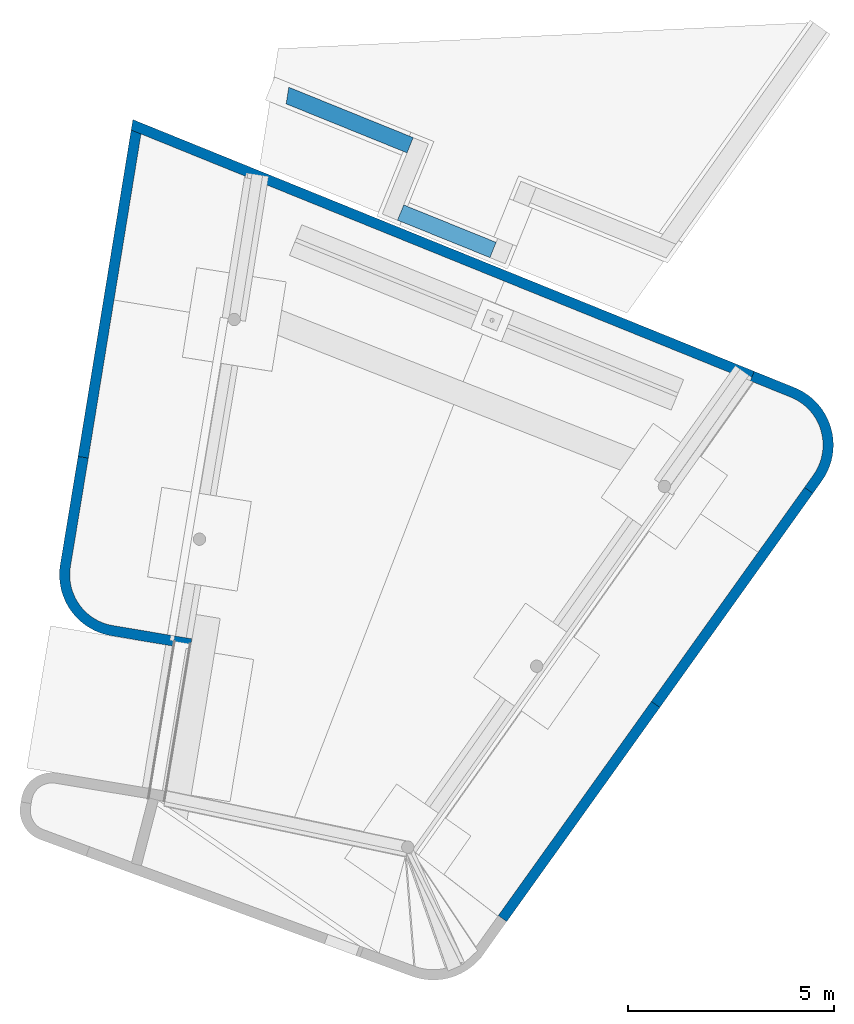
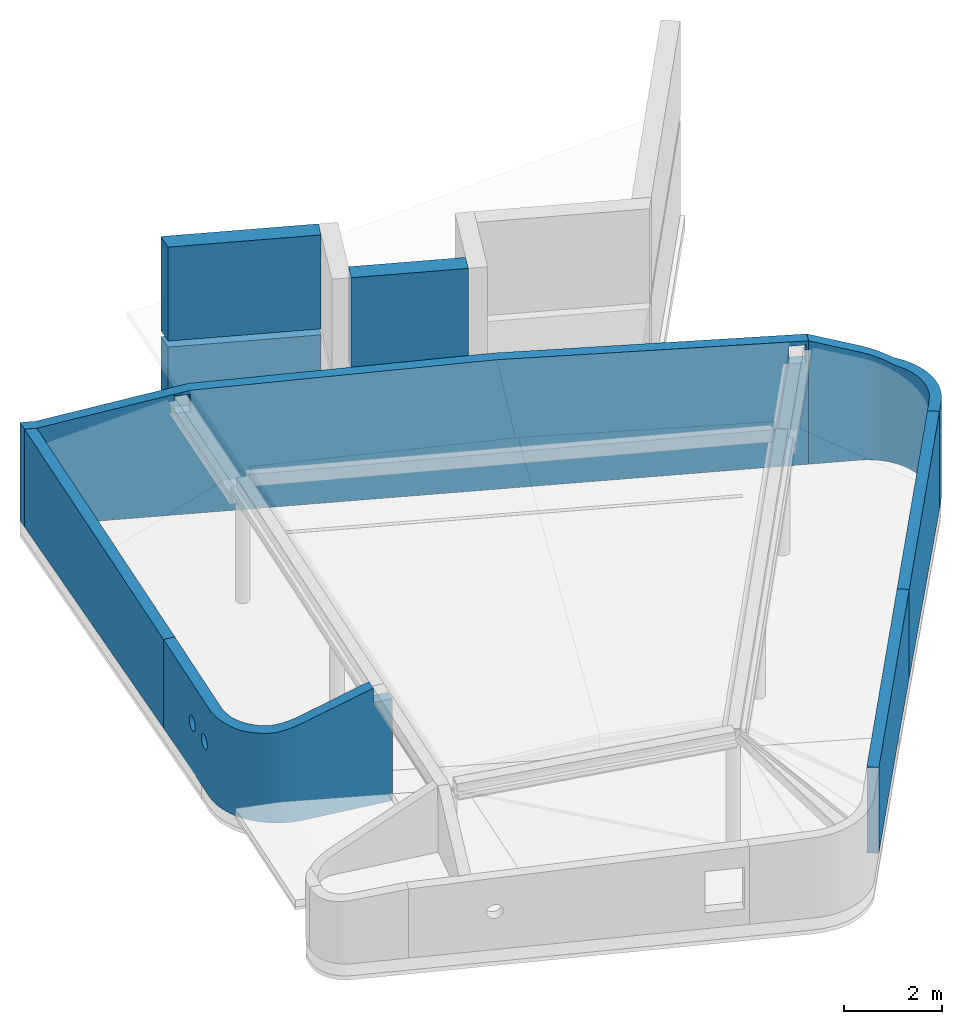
# One storey, part 7 of 8: 9 walls.
"""IFC2X3 building model written with IfcOpenShell, lengths in millimetres."""

from ifc_helpers import new_model, si_unit, frame, origin_with_axes, place, context, subcontext, project, spatial, faceted_brep, material, type_object, element, save


model = new_model("IFC2X3")

# Units and contexts
model_context = context("Model", 3, precision=1e-05, world=origin_with_axes())
body_context = subcontext(model_context, "Body", "Model", "MODEL_VIEW")
ifc_project = project(units=[si_unit("LENGTHUNIT", "METRE", prefix="MILLI"), si_unit("AREAUNIT", "SQUARE_METRE"), si_unit("VOLUMEUNIT", "CUBIC_METRE"), si_unit("MASSUNIT", "GRAM", prefix="KILO"), si_unit("TIMEUNIT", "SECOND"), si_unit("PLANEANGLEUNIT", "RADIAN"), si_unit("SOLIDANGLEUNIT", "STERADIAN"), si_unit("THERMODYNAMICTEMPERATUREUNIT", "DEGREE_CELSIUS"), si_unit("LUMINOUSINTENSITYUNIT", "LUMEN")], contexts=[model_context])

# Site, building, storey
site_placement = place(None, origin_with_axes())
site = spatial("IfcSite", under=ifc_project, at=site_placement, Name="Site", CompositionType="ELEMENT")
building_placement = place(site_placement, origin_with_axes())
building = spatial("IfcBuilding", under=site, at=building_placement, Name="Undefined", CompositionType="ELEMENT")
storey_placement = place(building_placement, origin_with_axes())
storey = spatial("IfcBuildingStorey", under=building, at=storey_placement, Name="Undefined", CompositionType="ELEMENT", Elevation=0.0)

# Walls
ifc_material_1 = material(Name="CONCRETE/C45/55")
wall_type_1 = type_object("IfcWallType", Name="2250*250", PredefinedType="NOTDEFINED")
wall_1_placement = place(storey_placement, frame((53012.3710597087, 44323.0525527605, 37875.0), z_axis=(0.0, 0.0, 1.0), x_axis=(-0.581761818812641, -0.813359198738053, 0.0)))
element("IfcWall", 1, at=wall_1_placement, inside=storey, type_object=wall_type_1, material=ifc_material_1, Name="PLASSTØPTYTTERVEGG", ObjectType="2250*250", context=body_context, shape_type="Brep", body=[
    faceted_brep([(6389.24011050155, 125.000000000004, -1025.00000004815), (6389.24011050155, -124.999999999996, -1024.99921310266), (2182.60052867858, -125.0, -1024.99921218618), (2182.60046200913, 125.000000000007, -1024.99999913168), (0.000223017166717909, 125.000000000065, -1101.39426953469), (0.0, -125.0, -1101.39348258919), (0.0, 125.000000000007, 1125.0), (0.0, -125.0, 1125.0), (6389.24011050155, -124.999999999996, 1125.0), (6389.24011050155, 125.000000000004, 1125.0)], [[[0, 1, 2, 3]], [[4, 3, 2, 5]], [[6, 7, 8, 9]], [[7, 6, 4, 5]], [[1, 8, 7, 5, 2]], [[9, 8, 1, 0]], [[6, 9, 0, 3, 4]]]),
])
wall_type_2 = type_object("IfcWallType", Name="3500*250", PredefinedType="NOTDEFINED")
wall_2_placement = place(storey_placement, frame((39116.1233768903, 50322.6194297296, 38500.0), z_axis=(0.0, 0.0, 1.0), x_axis=(-0.162510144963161, -0.986706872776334, 0.0)))
element("IfcWall", 2, at=wall_2_placement, inside=storey, type_object=wall_type_2, material=ifc_material_1, Name="PLASSTØPTYTTERVEGG", ObjectType="3500*250", context=body_context, shape_type="Brep", body=[
    faceted_brep([(1498.23986659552, 124.999986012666, -534.140377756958), (1498.75902990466, -125.000013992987, -534.140377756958), (1508.7173520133, -125.000014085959, -566.969234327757), (1508.19818870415, 124.999985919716, -566.969234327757), (1524.88893376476, -125.000014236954, -597.22452554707), (1524.36977045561, 124.999985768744, -597.22452554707), (1546.65231034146, -125.000014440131, -623.7435575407), (1546.13314703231, 124.99998556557, -623.7435575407), (1573.17112738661, -125.000014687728, -645.507218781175), (1572.65196407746, 124.999985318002, -645.507218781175), (1603.42628163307, -125.000014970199, -661.679143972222), (1602.90711832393, 124.99998503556, -661.679143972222), (1636.25508447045, -125.000015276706, -671.637855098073), (1635.7359211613, 124.999984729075, -671.637855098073), (1670.3959434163, -125.000015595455, -675.000644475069), (1669.87678010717, 124.99998441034, -675.000644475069), (1704.53684440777, -125.000015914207, -671.638281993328), (1704.01768109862, 124.999984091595, -671.638281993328), (1737.36577176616, -125.000016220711, -661.679981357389), (1736.84660845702, 124.999983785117, -661.679981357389), (1767.6211282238, -125.000016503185, -645.508434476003), (1767.10196491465, 124.999983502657, -645.508434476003), (1794.14021739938, -125.000016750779, -623.745104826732), (1793.62105409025, 124.999983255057, -623.745104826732), (1815.90392556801, -125.000016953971, -597.226344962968), (1815.38476225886, 124.999983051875, -597.226344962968), (1832.07588562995, -125.000017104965, -566.971255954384), (1831.5567223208, 124.999982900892, -566.971255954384), (1842.03461822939, -125.000017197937, -534.142523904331), (1841.51545492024, 124.999982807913, -534.142523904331), (1845.39741485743, -125.000017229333, -500.001738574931), (1844.87825154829, 124.999982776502, -500.001738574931), (1842.03504512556, -125.000017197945, -465.860911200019), (1841.51588181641, 124.999982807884, -465.860911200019), (1832.07672301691, -125.000017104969, -433.032054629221), (1831.55755970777, 124.999982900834, -433.032054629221), (1815.90514126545, -125.000016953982, -402.776763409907), (1815.38597795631, 124.999983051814, -402.776763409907), (1794.14176468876, -125.000016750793, -376.257731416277), (1793.62260137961, 124.999983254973, -376.257731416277), (1767.62294764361, -125.000016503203, -354.494070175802), (1767.10378433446, 124.999983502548, -354.494070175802), (1737.36779339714, -125.000016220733, -338.322144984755), (1736.848630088, 124.99998378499, -338.322144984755), (1704.53899055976, -125.000015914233, -328.363433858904), (1704.01982725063, 124.999984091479, -328.363433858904), (1670.39813161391, -125.000015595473, -325.000644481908), (1669.87896830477, 124.999984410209, -325.000644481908), (1636.25723062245, -125.000015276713, -328.363006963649), (1635.73806731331, 124.999984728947, -328.363006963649), (1603.42830326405, -125.000014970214, -338.321307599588), (1602.9091399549, 124.999985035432, -338.321307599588), (1573.17294680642, -125.000014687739, -354.492854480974), (1572.65378349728, 124.999985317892, -354.492854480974), (1546.65385763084, -125.000014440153, -376.256184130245), (1546.13469432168, 124.999985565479, -376.256184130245), (1524.89014946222, -125.000014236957, -402.774943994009), (1524.37098615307, 124.999985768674, -402.774943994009), (1508.71818940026, -125.000014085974, -433.030033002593), (1508.19902609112, 124.999985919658, -433.030033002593), (1498.75945680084, -125.000013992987, -465.858765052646), (1498.24029349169, 124.999986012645, -465.858765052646), (1495.39666017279, -125.000013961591, -499.999550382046), (1494.87749686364, 124.999986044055, -499.999550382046), (-1.16704177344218e-06, -125.000000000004, 500.000055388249), (1.16704177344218e-06, 125.000000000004, 499.99886851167), (1.16704177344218e-06, 125.000000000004, -1711.28562424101), (-1.16704177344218e-06, -125.000000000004, -1713.0847808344), (3758.10795111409, 773.41684568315, 584.305493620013), (3712.50372545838, 696.943008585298, 572.960917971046), (3661.5713115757, 623.909575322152, 562.123024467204), (3605.56913623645, 554.68711137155, 551.846803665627), (3544.78134975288, 489.626845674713, 542.184396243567), (3479.51638422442, 429.058888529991, 533.184828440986), (3410.10538857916, 373.29055664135, 524.893763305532), (3336.90054835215, 322.604813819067, 517.353269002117), (3260.27329872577, 277.258835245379, 510.601605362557), (3180.6124398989, 237.482702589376, 504.673029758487), (3104.8207423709, 206.163616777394, 499.998435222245), (3598.91328962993, 204.496039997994, 499.998435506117), (3642.9416528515, 239.870671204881, 505.257573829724), (3721.25961148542, 312.552219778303, 516.057055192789), (3794.20495526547, 390.624538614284, 527.65194409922), (3861.40756567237, 473.69149535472, 539.983409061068), (3922.52646233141, 561.331615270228, 552.988881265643), (3977.25153311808, 653.10021978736, 566.602372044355), (4025.30510764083, 748.531682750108, 580.754807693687), (4041.5153814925, 787.388380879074, 586.515558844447), (3765.61206764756, 788.319562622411, 586.515558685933), (3918.9489072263, 3317.09443732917, 899.338501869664), (3917.5333263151, 2897.48280081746, 899.336025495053), (4167.53379802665, 2897.20093515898, 899.992900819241), (4168.94747948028, 3316.24952776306, 899.995373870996), (3917.53386026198, 2897.64107560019, 1264.72455198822), (4167.53433127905, 2897.35900377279, 1264.90547179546), (3912.3829281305, 1370.78306140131, 773.908448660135), (3908.91156272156, 1281.81147728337, 745.304649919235), (3899.11545228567, 1193.31272374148, 716.845981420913), (3883.04430146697, 1105.73583598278, 688.676840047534), (3860.77965392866, 1019.5251717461, 660.940153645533), (3832.43447861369, 935.118156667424, 633.776655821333), (3798.15259654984, 852.943064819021, 607.324171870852), (4066.44336611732, 847.14179296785, 605.750416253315), (4100.4575764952, 948.430211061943, 638.34661364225), (4127.17515354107, 1051.88300814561, 671.630637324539), (4146.46053452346, 1156.97527345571, 705.433606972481), (4158.21586704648, 1263.17377770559, 739.584009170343), (4162.38150554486, 1369.93967864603, 773.908567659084), (3908.91156272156, 1281.81147728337, -1667.01268260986), (3899.11545228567, 1193.31272374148, -1667.7387950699), (3883.04430146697, 1105.73583598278, -1668.5160090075), (3860.77965392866, 1019.5251717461, -1669.34038090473), (3832.43447861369, 935.118156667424, -1670.20772796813), (3798.15259654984, 852.943064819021, -1671.11364935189), (3758.10795111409, 773.41684568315, -1672.05354848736), (3712.50372545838, 696.943008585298, -1673.02265640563), (3661.5713115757, 623.909575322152, -1674.01605593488), (3605.56913623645, 554.68711137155, -1675.02870664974), (3544.78134975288, 489.626845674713, -1676.05547044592), (3479.51638422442, 429.058888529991, -1677.09113761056), (3410.10538857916, 373.29055664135, -1678.13045325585), (3336.90054835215, 322.604813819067, -1679.16814398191), (3260.27329872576, 277.258835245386, -1680.19894463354), (3180.6124398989, 237.482702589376, -1681.21762501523), (3098.32216434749, 203.478236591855, 499.998448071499), (3098.32216434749, 203.478236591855, -1682.21901642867), (3013.82000598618, 175.417973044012, 499.998582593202), (3013.82000598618, 175.417973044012, -1683.19803789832), (2927.5347216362, 153.444287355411, 499.998688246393), (2927.5347216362, 153.444287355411, -1684.14972195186), (2839.90411554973, 137.66867215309, 499.99876449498), (2839.90411554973, 137.66867215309, -1685.0692398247), (2751.37281802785, 128.171171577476, 499.998810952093), (2751.37281802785, 128.171171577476, -1685.95192596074), (2662.39002940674, 124.999975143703, 499.998827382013), (2662.39002940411, 124.999975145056, -1686.79330168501), (2662.39002707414, -125.000024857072, 500.0000142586), (2769.16937341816, -121.194589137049, 499.99999454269), (2875.4069304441, -109.79758844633, 499.999938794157), (2980.56365774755, -90.8668502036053, 499.999847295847), (3084.10599896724, -64.4984273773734, 499.999720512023), (3185.50858900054, -30.82611112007, 499.999559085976), (3284.25691966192, 9.97924807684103, 499.999363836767), (3379.8499502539, 57.7106072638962, 499.999135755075), (3471.80264980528, 112.125781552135, 499.998875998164), (3559.64845807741, 172.948672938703, 499.998585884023), (2662.39002707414, -125.000024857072, -1688.58992128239), (2769.16937341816, -121.194589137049, -1687.58027041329), (2875.4069304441, -109.79758844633, -1686.52104705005), (2980.56365774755, -90.8668502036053, -1685.41762560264), (3084.10599896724, -64.4984273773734, -1684.2756047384), (3185.50858900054, -30.82611112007, -1683.10077897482), (3284.25691966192, 9.97924807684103, -1681.8991092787), (3379.8499502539, 57.7106072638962, -1680.67669282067), (3471.80264980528, 112.125781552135, -1679.43973203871), (3559.64845807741, 172.948672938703, -1678.19450316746), (3642.9416528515, 239.870671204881, -1676.94732439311), (3721.25961148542, 312.552219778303, -1675.70452379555), (3794.20495526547, 390.624538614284, -1674.47240724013), (3861.40756567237, 473.69149535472, -1673.25722638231), (3922.52646233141, 561.331615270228, -1672.0651469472), (3977.25153311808, 653.10021978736, -1670.90221744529), (4025.30510764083, 748.531682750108, -1669.77433848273), (4066.44336611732, 847.14179296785, -1668.68723282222), (4100.4575764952, 948.430211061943, -1667.64641634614), (4127.17515354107, 1051.88300814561, -1666.65717006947), (4146.46053452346, 1156.97527345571, -1665.72451334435), (4158.21586704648, 1263.17377770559, -1664.85317839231), (4162.38150554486, 1369.93967864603, -1664.04758629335), (4168.94747948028, 3316.24952776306, -1649.99999918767), (3918.94890226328, 3317.0929668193, -1652.29383909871), (3912.38292811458, 1370.7830614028, -1666.34135586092), (2208.19969847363, 124.999979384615, -566.973610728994), (2224.37128022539, 124.999979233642, -597.228901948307), (2246.13465680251, 124.999979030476, -623.747933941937), (2272.65347384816, 124.999978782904, -645.511595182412), (2302.90862809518, 124.999978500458, -661.683520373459), (2335.73743093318, 124.999978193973, -671.642231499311), (2369.87828987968, 124.999977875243, -675.005020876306), (2404.01919087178, 124.999977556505, -671.642658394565), (2436.8481182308, 124.999977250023, -661.684357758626), (2467.10347468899, 124.999976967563, -645.512810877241), (2493.62256386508, 124.999976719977, -623.749481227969), (2515.38627203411, 124.999976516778, -597.230721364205), (2531.55823209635, 124.999976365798, -566.975632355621), (2541.51696469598, 124.999976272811, -534.146900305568), (2544.8797613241, 124.999976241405, -500.006114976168), (2541.51739159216, 124.999976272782, -465.865287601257), (2531.55906948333, 124.999976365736, -433.036431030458), (2515.38748773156, 124.999976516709, -402.781139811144), (2493.62411115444, 124.999976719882, -376.262107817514), (2467.10529410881, 124.99997696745, -354.498446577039), (2436.85013986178, 124.999977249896, -338.326521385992), (2404.02133702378, 124.999977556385, -328.367810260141), (2369.88047807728, 124.999977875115, -325.005020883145), (2335.73957708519, 124.999978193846, -328.367383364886), (2302.91064972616, 124.999978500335, -338.325684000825), (2272.65529326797, 124.999978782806, -354.497230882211), (2246.13620409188, 124.999979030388, -376.260560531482), (2224.37249592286, 124.99997923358, -402.779320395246), (2208.2005358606, 124.999979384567, -433.03440940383), (2198.24180326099, 124.999979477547, -465.863141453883), (2194.87900663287, 124.999979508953, -500.003926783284), (2198.2413763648, 124.999979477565, -534.144754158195), (2208.71970143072, -125.000020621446, -433.03440940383), (2198.7609688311, -125.000020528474, -465.863141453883), (2224.89166149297, -125.000020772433, -402.779320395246), (2246.655369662, -125.000020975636, -376.260560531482), (2273.17445883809, -125.00002122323, -354.497230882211), (2303.42981529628, -125.000021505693, -338.325684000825), (2336.2587426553, -125.000021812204, -328.367383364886), (2370.3996436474, -125.000022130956, -325.005020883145), (2404.5405025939, -125.000022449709, -328.367810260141), (2437.3693054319, -125.000022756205, -338.326521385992), (2467.62445967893, -125.00002303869, -354.498446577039), (2494.14327672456, -125.000023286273, -376.262107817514), (2515.90665330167, -125.000023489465, -402.781139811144), (2532.07823505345, -125.000023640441, -433.036431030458), (2542.03655716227, -125.000023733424, -465.865287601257), (2545.39892689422, -125.000023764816, -500.006114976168), (2542.0361302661, -125.000023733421, -534.146900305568), (2532.07739766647, -125.000023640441, -566.975632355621), (2515.90543760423, -125.000023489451, -597.230721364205), (2494.1417294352, -125.000023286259, -623.749481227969), (2467.62264025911, -125.000023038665, -645.512810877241), (2437.36728380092, -125.000022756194, -661.684357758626), (2404.5383564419, -125.00002244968, -671.642658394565), (2370.3974554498, -125.000022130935, -675.005020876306), (2336.2565965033, -125.000021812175, -671.642231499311), (2303.4277936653, -125.000021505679, -661.683520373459), (2273.17263941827, -125.000021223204, -645.511595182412), (2246.65382237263, -125.000020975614, -623.747933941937), (2224.89044579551, -125.000020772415, -597.228901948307), (2208.71886404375, -125.000020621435, -566.973610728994), (2198.76054193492, -125.000020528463, -534.144754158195), (2195.39817220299, -125.000020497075, -500.003926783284)], [[[0, 1, 2, 3]], [[3, 2, 4, 5]], [[5, 4, 6, 7]], [[7, 6, 8, 9]], [[9, 8, 10, 11]], [[11, 10, 12, 13]], [[13, 12, 14, 15]], [[15, 14, 16, 17]], [[17, 16, 18, 19]], [[19, 18, 20, 21]], [[21, 20, 22, 23]], [[23, 22, 24, 25]], [[25, 24, 26, 27]], [[27, 26, 28, 29]], [[29, 28, 30, 31]], [[31, 30, 32, 33]], [[33, 32, 34, 35]], [[35, 34, 36, 37]], [[37, 36, 38, 39]], [[39, 38, 40, 41]], [[41, 40, 42, 43]], [[43, 42, 44, 45]], [[45, 44, 46, 47]], [[47, 46, 48, 49]], [[49, 48, 50, 51]], [[51, 50, 52, 53]], [[53, 52, 54, 55]], [[55, 54, 56, 57]], [[57, 56, 58, 59]], [[59, 58, 60, 61]], [[61, 60, 62, 63]], [[63, 62, 1, 0]], [[64, 65, 66, 67]], [[68, 69, 70, 71, 72, 73, 74, 75, 76, 77, 78, 79, 80, 81, 82, 83, 84, 85, 86, 87, 88]], [[89, 90, 91, 92]], [[93, 94, 91, 90]], [[95, 96, 97, 98, 99, 100, 101, 88, 87, 102, 103, 104, 105, 106, 107, 94, 93]], [[97, 96, 108, 109]], [[98, 97, 109, 110]], [[99, 98, 110, 111]], [[100, 99, 111, 112]], [[101, 100, 112, 113]], [[68, 88, 101, 113, 114]], [[69, 68, 114, 115]], [[70, 69, 115, 116]], [[71, 70, 116, 117]], [[72, 71, 117, 118]], [[73, 72, 118, 119]], [[74, 73, 119, 120]], [[75, 74, 120, 121]], [[76, 75, 121, 122]], [[77, 76, 122, 123]], [[124, 78, 77, 123, 125]], [[126, 124, 125, 127]], [[128, 126, 127, 129]], [[130, 128, 129, 131]], [[132, 130, 131, 133]], [[134, 132, 133, 135]], [[65, 64, 136, 137, 138, 139, 140, 141, 142, 143, 144, 145, 79, 78, 124, 126, 128, 130, 132, 134]], [[137, 136, 146, 147]], [[138, 137, 147, 148]], [[139, 138, 148, 149]], [[140, 139, 149, 150]], [[141, 140, 150, 151]], [[142, 141, 151, 152]], [[143, 142, 152, 153]], [[144, 143, 153, 154]], [[145, 144, 154, 155]], [[80, 79, 145, 155, 156]], [[81, 80, 156, 157]], [[82, 81, 157, 158]], [[83, 82, 158, 159]], [[84, 83, 159, 160]], [[85, 84, 160, 161]], [[86, 85, 161, 162]], [[102, 87, 86, 162, 163]], [[103, 102, 163, 164]], [[104, 103, 164, 165]], [[105, 104, 165, 166]], [[106, 105, 166, 167]], [[107, 106, 167, 168]], [[92, 91, 94, 107, 168, 169]], [[89, 92, 169, 170]], [[95, 93, 90, 89, 170, 171]], [[96, 95, 171, 108]], [[170, 169, 168, 167, 166, 165, 164, 163, 162, 161, 160, 159, 158, 157, 156, 155, 154, 153, 152, 151, 150, 149, 148, 147, 146, 67, 66, 135, 133, 131, 129, 127, 125, 123, 122, 121, 120, 119, 118, 117, 116, 115, 114, 113, 112, 111, 110, 109, 108, 171]], [[65, 134, 135, 66], [3, 5, 7, 9, 11, 13, 15, 17, 19, 21, 23, 25, 27, 29, 31, 33, 35, 37, 39, 41, 43, 45, 47, 49, 51, 53, 55, 57, 59, 61, 63, 0], [172, 173, 174, 175, 176, 177, 178, 179, 180, 181, 182, 183, 184, 185, 186, 187, 188, 189, 190, 191, 192, 193, 194, 195, 196, 197, 198, 199, 200, 201, 202, 203]], [[200, 204, 205, 201]], [[199, 206, 204, 200]], [[198, 207, 206, 199]], [[197, 208, 207, 198]], [[196, 209, 208, 197]], [[195, 210, 209, 196]], [[194, 211, 210, 195]], [[193, 212, 211, 194]], [[192, 213, 212, 193]], [[191, 214, 213, 192]], [[190, 215, 214, 191]], [[189, 216, 215, 190]], [[188, 217, 216, 189]], [[187, 218, 217, 188]], [[186, 219, 218, 187]], [[185, 220, 219, 186]], [[184, 221, 220, 185]], [[183, 222, 221, 184]], [[182, 223, 222, 183]], [[181, 224, 223, 182]], [[180, 225, 224, 181]], [[179, 226, 225, 180]], [[178, 227, 226, 179]], [[177, 228, 227, 178]], [[176, 229, 228, 177]], [[175, 230, 229, 176]], [[174, 231, 230, 175]], [[173, 232, 231, 174]], [[172, 233, 232, 173]], [[203, 234, 233, 172]], [[202, 235, 234, 203]], [[201, 205, 235, 202]], [[136, 64, 67, 146], [58, 56, 54, 52, 50, 48, 46, 44, 42, 40, 38, 36, 34, 32, 30, 28, 26, 24, 22, 20, 18, 16, 14, 12, 10, 8, 6, 4, 2, 1, 62, 60], [204, 206, 207, 208, 209, 210, 211, 212, 213, 214, 215, 216, 217, 218, 219, 220, 221, 222, 223, 224, 225, 226, 227, 228, 229, 230, 231, 232, 233, 234, 235, 205]]]),
])
wall_type_3 = type_object("IfcWallType", Name="3710*250", PredefinedType="NOTDEFINED")
wall_3_placement = place(storey_placement, frame((55358.984804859, 52293.9329381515, 38405.0), z_axis=(0.0, 0.0, 1.0), x_axis=(0.926951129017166, -0.375182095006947, 0.0)))
element("IfcWall", 3, at=wall_3_placement, inside=storey, type_object=wall_type_3, material=ifc_material_1, Name="PLASSTØPTYTTERVEGG", ObjectType="3710*250", context=body_context, shape_type="Brep", body=[
    faceted_brep([(1689.27931753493, -13.4126410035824, 622.560384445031), (1589.47296344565, 28.4189836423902, 658.748746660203), (1486.9103543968, 62.9458479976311, 695.935455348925), (1382.12532617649, 89.988240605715, 733.926954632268), (1275.66328220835, 109.405406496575, 772.525499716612), (1168.07835474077, 121.096279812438, 811.530186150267), (1059.93052060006, 125.000009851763, 850.73799552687), (-1.16177398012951e-06, 125.000000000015, 1235.00000214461), (1.16177761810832e-06, -125.0, 1235.00000202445), (1059.93052292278, -124.999990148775, 850.707488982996), (1150.05371804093, -128.253098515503, 818.034314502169), (1239.70782426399, -137.995492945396, 785.530409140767), (1328.42619423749, -154.176464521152, 753.364954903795), (1415.74705108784, -176.711791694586, 721.705372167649), (1501.21589196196, -205.484178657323, 690.716448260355), (1584.3878537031, -240.343865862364, 660.559479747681), (1664.83002835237, -281.109409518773, 631.391432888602), (1742.12371642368, -327.568626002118, 603.364126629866), (1765.19987567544, -343.813014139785, 594.99623801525), (1765.29811579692, -51.9365577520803, 594.996238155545), (2431.86756759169, -768.544074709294, 594.998600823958), (2384.57252297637, -671.207689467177, 594.998433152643), (2330.38275028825, -577.534525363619, 594.998241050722), (2269.58030592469, -488.012148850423, 594.998025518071), (2202.48166507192, -403.106521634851, 594.997787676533), (2129.43607445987, -323.259575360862, 594.997528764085), (2050.82373454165, -248.886911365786, 594.997250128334), (1967.05382055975, -180.375637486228, 594.996953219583), (1878.56235279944, -118.08235317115, 594.996639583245), (1785.80992711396, -62.3312933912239, 594.99631085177), (1815.866606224, -379.479696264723, 594.996417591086), (1885.67486787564, -436.57242449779, 594.996665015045), (1951.18515114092, -498.54964449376, 594.996897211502), (2012.05647665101, -565.088766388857, 594.997112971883), (2067.97201069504, -635.843455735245, 594.99731117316), (2118.64071433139, -710.445436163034, 594.997490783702), (2163.79885823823, -788.506406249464, 594.997650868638), (2203.21139541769, -869.620060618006, 594.997790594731), (2236.67318460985, -953.364204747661, 594.997909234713), (2264.01005804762, -1039.30295248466, 594.998006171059), (2285.07972799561, -1126.98899481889, 594.998080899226), (2299.77252735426, -1215.96592811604, 594.998133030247), (2308.01198047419, -1305.77062968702, 594.998162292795), (2309.75520121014, -1395.93566832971, 594.998168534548), (2304.99311614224, -1485.99173729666, 594.998151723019), (2293.75051180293, -1575.47009702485, 594.998111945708), (2276.08590566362, -1663.90501491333, 594.998049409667), (2189.39853740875, -2028.81839286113, 594.997742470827), (2432.62961163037, -2086.5993978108, 594.998604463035), (2519.31697988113, -1721.68601985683, 594.998911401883), (2540.51450725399, -1615.56411839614, 594.998986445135), (2554.00563246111, -1508.19008672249, 594.999034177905), (2559.72013454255, -1400.12280396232, 594.999054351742), (2557.62826965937, -1291.9247575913, 594.999046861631), (2547.74092591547, -1184.15911570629, 594.999011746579), (2530.10956668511, -1077.38679574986, 594.99894918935), (2504.82596274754, -972.163544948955, 594.998859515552), (2472.02171462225, -869.037047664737, 594.998743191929), (2276.08590566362, -1663.90501491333, -1855.0), (2293.75051180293, -1575.47009702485, -1855.0), (2304.99311614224, -1485.99173729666, -1855.0), (2309.75520121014, -1395.93566832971, -1855.0), (2308.01198047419, -1305.77062968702, -1855.0), (2299.77252735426, -1215.96592811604, -1855.0), (2285.07972799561, -1126.98899481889, -1855.0), (2264.01005804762, -1039.30295248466, -1855.0), (2236.67318460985, -953.364204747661, -1855.0), (2203.21139541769, -869.620060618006, -1855.0), (2163.79885823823, -788.506406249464, -1855.0), (2118.64071433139, -710.445436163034, -1855.0), (2067.97201069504, -635.843455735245, -1855.0), (2012.05647665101, -565.088766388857, -1855.0), (1951.18515114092, -498.54964449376, -1855.0), (1885.67486787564, -436.57242449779, -1855.0), (1815.866606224, -379.479696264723, -1855.0), (1742.12371642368, -327.568626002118, -1855.0), (1664.83002835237, -281.109409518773, -1855.0), (1584.3878537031, -240.343865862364, -1855.0), (1501.21589196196, -205.484178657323, -1855.0), (1415.74705108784, -176.711791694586, -1855.0), (1328.42619423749, -154.176464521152, -1855.0), (1239.70782426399, -137.995492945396, -1855.0), (1150.05371804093, -128.253098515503, -1855.0), (1059.93052292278, -124.999990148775, -1855.0), (1.16177761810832e-06, -125.0, -1855.0), (-1.16177398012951e-06, 125.000000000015, -1855.0), (1059.93052060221, 125.000009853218, -1855.0), (1168.07835474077, 121.096279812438, -1855.0), (1275.66328220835, 109.405406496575, -1855.0), (1382.12532617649, 89.988240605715, -1855.0), (1486.9103543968, 62.9458479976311, -1855.0), (1589.47296344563, 28.4189836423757, -1855.0), (1689.27931753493, -13.4126410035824, -1855.0), (1785.80992711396, -62.3312933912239, -1855.0), (1878.56235279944, -118.08235317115, -1855.0), (1967.05382055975, -180.375637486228, -1855.0), (2050.82373454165, -248.886911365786, -1855.0), (2129.43607445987, -323.259575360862, -1855.0), (2202.48166507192, -403.106521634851, -1855.0), (2269.58030592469, -488.012148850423, -1855.0), (2330.38275028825, -577.534525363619, -1855.0), (2384.57252297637, -671.207689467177, -1855.0), (2431.86756759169, -768.544074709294, -1855.0), (2472.02171462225, -869.037047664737, -1855.0), (2504.82596274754, -972.163544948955, -1855.0), (2530.10956668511, -1077.38679574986, -1855.0), (2547.74092591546, -1184.15911570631, -1855.0), (2557.62826965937, -1291.9247575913, -1855.0), (2559.72013454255, -1400.12280396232, -1855.0), (2554.00563246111, -1508.19008672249, -1855.0), (2540.51450725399, -1615.56411839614, -1855.0), (2519.31697986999, -1721.68601984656, -1855.0), (2432.62961163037, -2086.5993978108, -1855.0), (2189.39853740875, -2028.81839286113, -1855.0)], [[[0, 1, 2, 3, 4, 5, 6, 7, 8, 9, 10, 11, 12, 13, 14, 15, 16, 17, 18, 19]], [[20, 21, 22, 23, 24, 25, 26, 27, 28, 29, 19, 18, 30, 31, 32, 33, 34, 35, 36, 37, 38, 39, 40, 41, 42, 43, 44, 45, 46, 47, 48, 49, 50, 51, 52, 53, 54, 55, 56, 57]], [[58, 59, 60, 61, 62, 63, 64, 65, 66, 67, 68, 69, 70, 71, 72, 73, 74, 75, 76, 77, 78, 79, 80, 81, 82, 83, 84, 85, 86, 87, 88, 89, 90, 91, 92, 93, 94, 95, 96, 97, 98, 99, 100, 101, 102, 103, 104, 105, 106, 107, 108, 109, 110, 111, 112, 113]], [[103, 102, 20, 57]], [[104, 103, 57, 56]], [[105, 104, 56, 55]], [[106, 105, 55, 54]], [[107, 106, 54, 53]], [[108, 107, 53, 52]], [[109, 108, 52, 51]], [[110, 109, 51, 50]], [[111, 110, 50, 49]], [[112, 111, 49, 48]], [[113, 112, 48, 47]], [[58, 113, 47, 46]], [[59, 58, 46, 45]], [[60, 59, 45, 44]], [[61, 60, 44, 43]], [[62, 61, 43, 42]], [[63, 62, 42, 41]], [[64, 63, 41, 40]], [[65, 64, 40, 39]], [[66, 65, 39, 38]], [[67, 66, 38, 37]], [[68, 67, 37, 36]], [[69, 68, 36, 35]], [[70, 69, 35, 34]], [[71, 70, 34, 33]], [[72, 71, 33, 32]], [[73, 72, 32, 31]], [[74, 73, 31, 30]], [[17, 75, 74, 30, 18]], [[76, 75, 17, 16]], [[77, 76, 16, 15]], [[78, 77, 15, 14]], [[79, 78, 14, 13]], [[80, 79, 13, 12]], [[81, 80, 12, 11]], [[82, 81, 11, 10]], [[83, 82, 10, 9]], [[84, 83, 9, 8]], [[85, 84, 8, 7]], [[86, 85, 7, 6]], [[87, 86, 6, 5]], [[88, 87, 5, 4]], [[89, 88, 4, 3]], [[90, 89, 3, 2]], [[91, 90, 2, 1]], [[92, 91, 1, 0]], [[93, 92, 0, 19, 29]], [[94, 93, 29, 28]], [[95, 94, 28, 27]], [[96, 95, 27, 26]], [[97, 96, 26, 25]], [[98, 97, 25, 24]], [[99, 98, 24, 23]], [[100, 99, 23, 22]], [[101, 100, 22, 21]], [[102, 101, 21, 20]]]),
])
ifc_material_2 = material(Name="CONCRETE/C35/45")
wall_type_4 = type_object("IfcWallType", Name="2350*400", PredefinedType="NOTDEFINED")
wall_4_placement = place(storey_placement, frame((47052.2852247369, 57899.26419816, 38175.0), z_axis=(0.0, 0.0, 1.0), x_axis=(-0.926870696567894, 0.375380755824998, 0.0)))
element("IfcWall", 4, at=wall_4_placement, inside=storey, type_object=wall_type_4, material=ifc_material_2, Name="PLASSTØPTVEGG", ObjectType="2350*400", context=body_context, shape_type="Brep", body=[
    faceted_brep([(0.0, 200.0, -1175.0), (0.0, 200.0, 1175.0), (3166.06537153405, 200.0, 1175.0), (3166.06537153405, 200.0, -1175.0), (0.0, -200.0, 1175.0), (3258.96899429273, -200.0, 1175.0), (0.0, -200.0, -1175.0), (3258.96899429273, -200.0, -1175.0)], [[[0, 1, 2, 3]], [[1, 4, 5, 2]], [[4, 6, 7, 5]], [[6, 0, 3, 7]], [[5, 7, 3, 2]], [[6, 4, 1, 0]]]),
])
wall_5_placement = place(storey_placement, frame((46821.8601806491, 56264.6719022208, 40675.0), z_axis=(0.0, 0.0, 1.0), x_axis=(0.926929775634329, -0.375234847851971, 0.0)))
element("IfcWall", 5, at=wall_5_placement, inside=storey, type_object=wall_type_4, material=ifc_material_2, Name="PLASSTØPTVEGG", ObjectType="2350*400", context=body_context, shape_type="Brep", body=[
    faceted_brep([(0.0, 200.0, -1175.0), (0.0, 200.0, 1175.0), (2420.19469600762, 200.000000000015, 1175.0), (2420.19469600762, 200.000000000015, -1175.0), (0.0, -200.0, 1175.0), (2420.19469600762, -199.999999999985, 1175.0), (0.0, -200.0, -1175.0), (2420.19469600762, -199.999999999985, -1175.0)], [[[0, 1, 2, 3]], [[1, 4, 5, 2]], [[4, 6, 7, 5]], [[6, 0, 3, 7]], [[5, 7, 3, 2]], [[6, 4, 1, 0]]]),
])
wall_6_placement = place(storey_placement, frame((47052.2852247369, 57899.26419816, 40675.0), z_axis=(0.0, 0.0, 1.0), x_axis=(-0.926870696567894, 0.375380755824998, 0.0)))
element("IfcWall", 6, at=wall_6_placement, inside=storey, type_object=wall_type_4, material=ifc_material_2, Name="PLASSTØPTVEGG", ObjectType="2350*400", context=body_context, shape_type="Brep", body=[
    faceted_brep([(0.0, 200.0, -1175.0), (0.0, 200.0, 1175.0), (3166.06537153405, 200.0, 1175.0), (3166.06537153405, 200.0, -1175.0), (0.0, -200.0, 1175.0), (3258.96899429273, -200.0, 1175.0), (0.0, -200.0, -1175.0), (3258.96899429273, -200.0, -1175.0)], [[[0, 1, 2, 3]], [[1, 4, 5, 2]], [[4, 6, 7, 5]], [[6, 0, 3, 7]], [[5, 7, 3, 2]], [[6, 4, 1, 0]]]),
])
wall_type_5 = type_object("IfcWallType", Name="2800*250", PredefinedType="NOTDEFINED")
wall_7_placement = place(storey_placement, frame((40445.784887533, 58501.7411155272, 37600.0), z_axis=(0.0, 0.0, 1.0), x_axis=(-0.16046077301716, -0.987042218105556, 0.0)))
element("IfcWall", 7, at=wall_7_placement, inside=storey, type_object=wall_type_5, material=ifc_material_1, Name="PLASSTØPTYTTERVEGG", ObjectType="2800*250", context=body_context, shape_type="Brep", body=[
    faceted_brep([(313.804141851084, 125.000000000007, -1042.82800254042), (8286.23555933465, 125.000000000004, -814.907617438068), (8286.23555933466, -124.999999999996, -813.116156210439), (256.896032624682, -125.0, -1042.6634625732), (313.804141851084, 125.000000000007, 1400.0), (256.896032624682, -125.0, 1400.0), (8286.23555933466, -124.999999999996, 1400.0), (8286.23555933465, 125.000000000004, 1400.0)], [[[0, 1, 2, 3]], [[4, 5, 6, 7]], [[5, 4, 0, 3]], [[6, 5, 3, 2]], [[7, 6, 2, 1]], [[4, 7, 1, 0]]]),
])
wall_8_placement = place(storey_placement, frame((56729.3871537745, 49519.7999779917, 37600.0), z_axis=(0.0, 0.0, 1.0), x_axis=(-0.581761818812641, -0.813359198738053, 0.0)))
element("IfcWall", 8, at=wall_8_placement, inside=storey, type_object=wall_type_5, material=ifc_material_1, Name="PLASSTØPTYTTERVEGG", ObjectType="2800*250", context=body_context, shape_type="Brep", body=[
    faceted_brep([(0.0544631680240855, 125.000001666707, -1049.9999991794), (6389.24036526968, 125.0, -826.394269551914), (6389.24036526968, -125.000000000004, -826.395115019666), (0.0, -125.0, -1050.00084464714), (0.0, 125.0, 1400.0), (0.0, -125.0, 1400.0), (6389.24036526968, -125.000000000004, 1400.0), (6389.24036526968, 125.0, 1400.0)], [[[0, 1, 2, 3]], [[4, 5, 6, 7]], [[5, 4, 0, 3]], [[6, 5, 3, 2]], [[7, 6, 2, 1]], [[4, 7, 1, 0]]]),
])
wall_type_6 = type_object("IfcWallType", Name="3240*250", PredefinedType="NOTDEFINED")
wall_9_placement = place(storey_placement, frame((55358.9452240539, 52293.9497029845, 38170.0), z_axis=(0.0, 0.0, 1.0), x_axis=(-0.926807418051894, 0.375536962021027, 0.0)))
element("IfcWall", 9, at=wall_9_placement, inside=storey, type_object=wall_type_6, material=ifc_material_1, Name="PLASSTØPTYTTERVEGG", ObjectType="3240*250", context=body_context, shape_type="Brep", body=[
    faceted_brep([(405.414211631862, -125.012187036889, 1370.09746281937), (405.417232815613, 125.180691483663, 1370.13355024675), (405.700428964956, 125.244152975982, 930.133523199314), (405.697407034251, -125.010582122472, 930.097426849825), (55.4160176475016, 125.248396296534, 930.040000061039), (55.4129956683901, -125.010347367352, 930.003903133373), (55.4159785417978, 125.184918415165, 1370.12994646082), (55.4129573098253, -125.011952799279, 1370.09385845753), (-7.27595761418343e-12, 124.999999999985, -1620.0), (-7.27595761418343e-12, -125.0, -1620.0), (-7.27595761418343e-12, -125.0, 1470.20539328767), (-7.27595761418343e-12, 124.999999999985, 1470.20662581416), (16217.8086777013, 124.999999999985, -1620.0), (16274.7102815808, -125.0, -1620.0), (16217.8086777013, 124.999999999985, 830.002140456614), (16274.7102815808, -125.0, 830.001636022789), (15959.9275819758, 124.999999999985, 830.004428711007), (15959.9806566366, -125.104629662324, 830.004428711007), (12785.9217121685, 124.999999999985, 1470.00201782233), (12785.9747646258, -125.000000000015, 1470.00201782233), (6447.55218468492, 124.999999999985, 1620.0), (6447.60523714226, -125.0, 1620.0), (13130.6974068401, -125.019097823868, 930.097426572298), (12780.4129954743, -125.018863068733, 930.003902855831), (12780.4129571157, -125.020468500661, 1370.09385817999), (13130.4142114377, -125.020702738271, 1370.09746254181), (13130.7004287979, 125.237879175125, 930.133523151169), (12780.4160174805, 125.242122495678, 930.040000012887), (13130.4172326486, 125.174417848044, 1370.13355019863), (12780.4159783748, 125.17864477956, 1370.1299464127)], [[[0, 1, 2, 3]], [[3, 2, 4, 5]], [[5, 4, 6, 7]], [[7, 6, 1, 0]], [[8, 9, 10, 11]], [[9, 8, 12, 13]], [[13, 12, 14, 15]], [[15, 14, 16, 17]], [[17, 16, 18, 19]], [[19, 18, 20, 21]], [[10, 21, 20, 11]], [[9, 13, 15, 17, 19, 21, 10], [3, 5, 7, 0], [22, 23, 24, 25]], [[22, 26, 27, 23]], [[25, 28, 26, 22]], [[24, 29, 28, 25]], [[23, 27, 29, 24]], [[18, 16, 14, 12, 8, 11, 20], [2, 1, 6, 4], [26, 28, 29, 27]]]),
])

save(model, "model.ifc")
